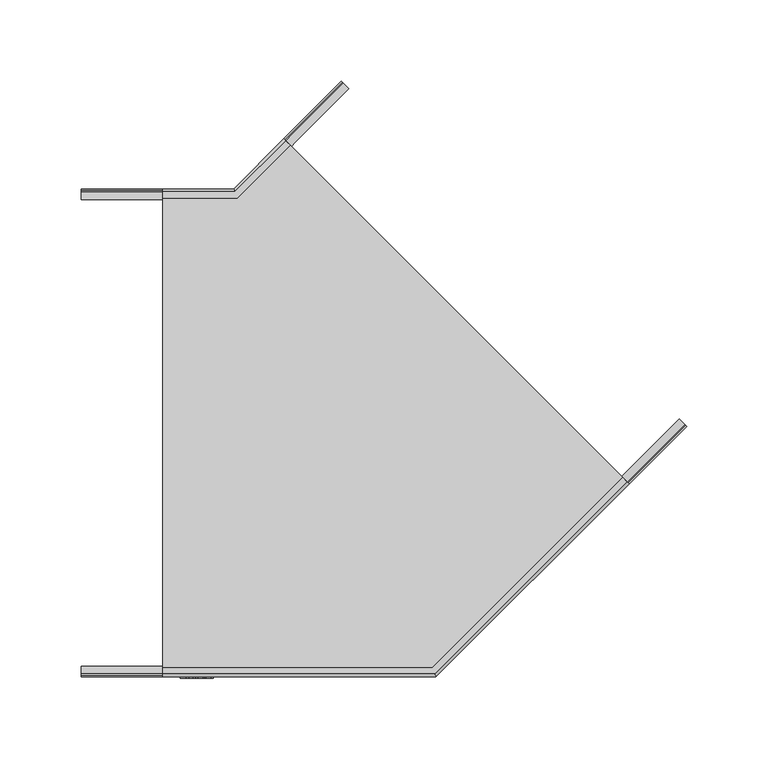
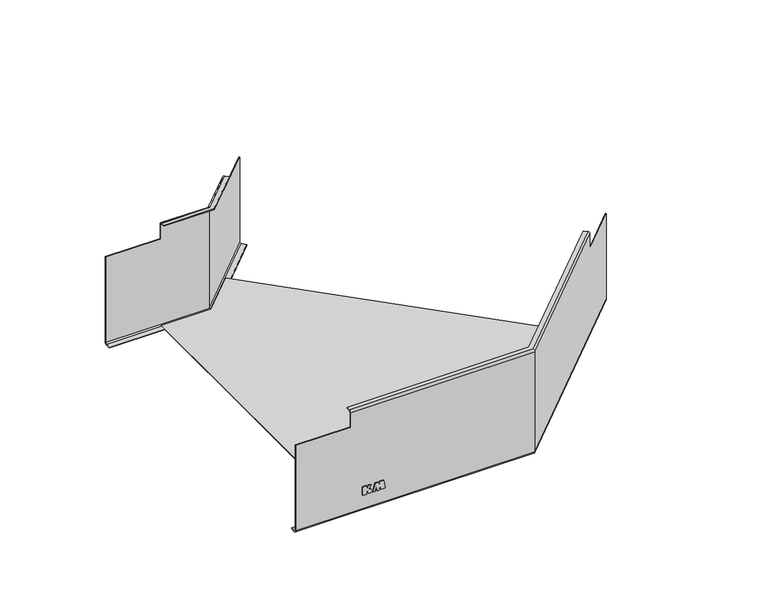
"""IFC4 building model written with IfcOpenShell, lengths in millimetres: cable carrier fitting geometry, КМ Профиль Угол горизонтальный GL45 : Угол горизонтальный GL45."""

from ifc_helpers import new_model, si_unit, frame, origin, place, context, project, spatial, polyline, circle_curve, ellipse_curve, outline, extrude, source, transform, mapped, element, save
from ifc_brep_helpers import plane_surface, cylinder_surface, revolved_surface, advanced_brep


def cable_carrier_fitting_a9c2bbf1(model_context):
    return source(origin(), model_context, "Body", "SolidModel", [
        extrude(outline(polyline([(-26.986157, -94.9286902), (-34.737421, -94.9286902), (-34.737421, -91.3528633), (-31.5720802, -91.3528633), (-34.737421, -89.6486588), (-34.737421, -85.7502474), (-31.194034, -87.6175565), (-30.5086619, -89.8593076), (-26.986157, -87.3928231), (-26.986157, -89.5187878), (-30.564509, -91.4214313), (-26.986157, -91.4214313), (-26.986157, -94.9286902)])), frame((0.0, -150.8, 0.0), z_axis=(0.0, 1.0, 0.0), x_axis=(0.0, 0.0, 1.0)), (0.0, 0.0, 1.0), 0.8),
        extrude(outline(polyline([(-34.737421, -83.686088), (-30.0696135, -83.3024132), (-34.7434681, -81.8943945), (-34.7434681, -80.4198838), (-30.0541919, -78.9398153), (-34.7429915, -78.4623226), (-34.7429915, -74.559882), (-26.9623682, -75.7513795), (-26.9623682, -78.9453343), (-30.0390232, -79.9666418), (-26.9647569, -80.7331425), (-26.9647569, -83.763871), (-34.737421, -85.5841516), (-34.737421, -83.686088)])), frame((0.0, -150.8, 0.0), z_axis=(0.0, 1.0, 0.0), x_axis=(0.0, 0.0, 1.0)), (0.0, 0.0, 1.0), 0.8),
        advanced_brep(
        [(-155.6898121, -149.2, -48.2), (-155.6898121, -148.2, -49.2), (-155.6898121, -143.5, -49.2), (-155.6898121, -143.5, -50.0), (-155.6898121, -148.2, -50.0), (-155.6898121, -150.0, -48.2), (-155.6898121, -150.0, 34.0), (-155.6898121, -149.2, 34.0), (61.8006635, -149.2, 48.2), (61.8006635, -149.2, -48.2), (-105.6898121, -149.2, 34.0), (-105.6898121, -149.2, 48.2), (61.3864499, -148.2, -49.2), (214.8825469, 5.2960969, -49.2), (211.559145, 8.6194988, -49.2), (59.4396462, -143.5, -49.2), (59.4396462, -143.5, -50.0), (211.559145, 8.6194988, -50.0), (214.8825469, 5.2960969, -50.0), (61.3864499, -148.2, -50.0), (62.1320344, -150.0, -48.2), (62.1320344, -150.0, 48.2), (-105.6898121, -150.0, 48.2), (-105.6898121, -150.0, 34.0), (61.3864499, -148.2, 50.0), (-105.6898121, -148.2, 50.0), (179.5272078, -30.0592421, 50.0), (176.9109127, -27.4429471, 50.0), (59.8538598, -144.5, 50.0), (-105.6898121, -144.5, 50.0), (59.8538598, -144.5, 49.2), (-105.6898121, -144.5, 49.2), (176.9109127, -27.4429471, 49.2), (179.5272078, -30.0592421, 49.2), (61.3864499, -148.2, 49.2), (-105.6898121, -148.2, 49.2), (215.5896536, 4.5889901, -48.2), (215.5896536, 4.5889901, 34.0), (216.1553391, 4.0233047, 34.0), (216.1553391, 4.0233047, -48.2), (180.2343146, -30.7663489, 48.2), (180.2343146, -30.7663489, 34.0), (180.8, -31.3320344, 34.0), (180.8, -31.3320344, 48.2)],
        [
            (0, 1, circle_curve(frame((-155.6898121, -148.2, -48.2), z_axis=(1.0, 0.0, 0.0), x_axis=(0.0, 1.0, 0.0)), 1.0)),
            (1, 2),
            (2, 3),
            (3, 4),
            (4, 5, circle_curve(frame((-155.6898121, -148.2, -48.2), z_axis=(-1.0, 0.0, 0.0), x_axis=(0.0, 1.0, 0.0)), 1.8)),
            (5, 6),
            (6, 7),
            (7, 0),
            (8, 9),
            (9, 0),
            (7, 10),
            (10, 11),
            (11, 8),
            (9, 12, ellipse_curve(frame((61.3864499, -148.2, -48.2), z_axis=(0.9238795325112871, 0.3826834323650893, 0.0), x_axis=(0.38268343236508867, -0.9238795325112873, 0.0)), 1.0823922, 1.0)),
            (12, 1),
            (12, 13),
            (13, 14),
            (14, 15),
            (15, 2),
            (15, 16),
            (16, 3),
            (16, 17),
            (17, 18),
            (18, 19),
            (19, 4),
            (19, 20, ellipse_curve(frame((61.3864499, -148.2, -48.2), z_axis=(-0.9238795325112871, -0.3826834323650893, 0.0), x_axis=(-0.38268343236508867, 0.9238795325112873, 0.0)), 1.948306, 1.8)),
            (20, 5),
            (20, 21),
            (21, 22),
            (22, 23),
            (23, 6),
            (21, 24, ellipse_curve(frame((61.3864499, -148.2, 48.2), z_axis=(-0.9238795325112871, -0.3826834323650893, 0.0), x_axis=(-0.38268343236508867, 0.9238795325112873, 0.0)), 1.948306, 1.8)),
            (24, 25),
            (25, 22, circle_curve(frame((-105.6898121, -148.2, 48.2), z_axis=(1.0, 0.0, 0.0), x_axis=(0.0, 1.0, 0.0)), 1.8)),
            (24, 26),
            (26, 27),
            (27, 28),
            (28, 29),
            (29, 25),
            (28, 30),
            (30, 31),
            (31, 29),
            (30, 32),
            (32, 33),
            (33, 34),
            (34, 35),
            (35, 31),
            (34, 8, ellipse_curve(frame((61.3864499, -148.2, 48.2), z_axis=(0.9238795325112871, 0.3826834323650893, 0.0), x_axis=(0.38268343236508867, -0.9238795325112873, 0.0)), 1.0823922, 1.0)),
            (11, 35, circle_curve(frame((-105.6898121, -148.2, 48.2), z_axis=(-1.0, 0.0, 0.0), x_axis=(0.0, 1.0, 0.0)), 1.0)),
            (13, 36, circle_curve(frame((214.8825469, 5.2960969, -48.2), z_axis=(-0.7071067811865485, -0.7071067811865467, 0.0), x_axis=(-0.7071067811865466, 0.7071067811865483, 0.0)), 1.0)),
            (36, 37),
            (37, 38),
            (38, 39),
            (39, 18, circle_curve(frame((214.8825469, 5.2960969, -48.2), z_axis=(0.7071067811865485, 0.7071067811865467, 0.0), x_axis=(-0.7071067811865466, 0.7071067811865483, 0.0)), 1.8)),
            (17, 14),
            (8, 40),
            (40, 41),
            (41, 37),
            (36, 9),
            (39, 20),
            (38, 42),
            (42, 43),
            (43, 21),
            (43, 26, circle_curve(frame((179.5272078, -30.0592421, 48.2), z_axis=(-0.7071067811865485, -0.7071067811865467, 0.0), x_axis=(-0.7071067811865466, 0.7071067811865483, 0.0)), 1.8)),
            (27, 32),
            (33, 40, circle_curve(frame((179.5272078, -30.0592421, 48.2), z_axis=(0.7071067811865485, 0.7071067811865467, 0.0), x_axis=(-0.7071067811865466, 0.7071067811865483, 0.0)), 1.0)),
            (23, 10),
            (41, 42),
        ],
        [
            plane_surface(frame((-155.6898121, -150.0, 0.0), z_axis=(-1.0, 0.0, 0.0), x_axis=(0.0, 0.0, 1.0))),
            plane_surface(frame((-155.6898121, -149.2, 48.2), z_axis=(0.0, 1.0, 0.0), x_axis=(1.0, 0.0, 0.0))),
            revolved_surface(polyline([(61.80066350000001, -147.2, -48.2), (-155.6898121, -147.2, -48.2)]), (-155.6898121, -148.2, -48.2), (1.0, 0.0, 0.0)),
            plane_surface(frame((-155.6898121, -148.2, -49.2), z_axis=(0.0, 0.0, 1.0), x_axis=(1.0, 0.0, 0.0))),
            plane_surface(frame((-155.6898121, -143.5, -49.2), z_axis=(0.0, 1.0, 0.0), x_axis=(1.0, 0.0, 0.0))),
            plane_surface(frame((-155.6898121, -143.5, -50.0), z_axis=(0.0, 0.0, -1.0), x_axis=(1.0, 0.0, 0.0))),
            cylinder_surface(frame((-155.6898121, -148.2, -48.2), z_axis=(-1.0, 0.0, 0.0), x_axis=(0.0, 1.0, 0.0)), 1.8),
            plane_surface(frame((-155.6898121, -150.0, -48.2), z_axis=(0.0, -1.0, 0.0), x_axis=(1.0, 0.0, 0.0))),
            cylinder_surface(frame((-155.6898121, -148.2, 48.2), z_axis=(-1.0, 0.0, 0.0), x_axis=(0.0, 1.0, 0.0)), 1.8),
            plane_surface(frame((-155.6898121, -148.2, 50.0), z_axis=(0.0, 0.0, 1.0), x_axis=(1.0, 0.0, 0.0))),
            plane_surface(frame((-155.6898121, -144.5, 50.0), z_axis=(0.0, 1.0, 0.0), x_axis=(1.0, 0.0, 0.0))),
            plane_surface(frame((-155.6898121, -144.5, 49.2), z_axis=(0.0, 0.0, -1.0), x_axis=(1.0, 0.0, 0.0))),
            revolved_surface(polyline([(61.80066350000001, -147.2, 48.2), (-105.6898121, -147.2, 48.2)]), (-155.6898121, -148.2, 48.2), (1.0, 0.0, 0.0)),
            plane_surface(frame((216.1553391, 4.0233047, 0.0), z_axis=(0.7071067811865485, 0.7071067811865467, 0.0), x_axis=(0.0, 0.0, 1.0))),
            plane_surface(frame((61.8006635, -149.2, 48.2), z_axis=(-0.7071067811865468, 0.7071067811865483, 0.0), x_axis=(0.7071067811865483, 0.7071067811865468, 0.0))),
            revolved_surface(polyline([(214.17544006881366, 6.003203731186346, -48.2), (60.386449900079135, -147.78578643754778, -48.2)]), (60.8592421, -148.7272078, -48.2), (0.7071067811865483, 0.7071067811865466, 0.0)),
            plane_surface(frame((59.4396462, -143.5, -49.2), z_axis=(-0.7071067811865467, 0.7071067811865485, 0.0), x_axis=(0.7071067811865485, 0.7071067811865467, 0.0))),
            cylinder_surface(frame((60.8592421, -148.7272078, -48.2), z_axis=(-0.7071067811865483, -0.7071067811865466, 0.0), x_axis=(-0.7071067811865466, 0.7071067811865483, 0.0)), 1.8),
            plane_surface(frame((62.1320344, -150.0, -48.2), z_axis=(0.7071067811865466, -0.7071067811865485, 0.0), x_axis=(0.7071067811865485, 0.7071067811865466, 0.0))),
            cylinder_surface(frame((60.8592421, -148.7272078, 48.2), z_axis=(-0.7071067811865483, -0.7071067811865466, 0.0), x_axis=(-0.7071067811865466, 0.7071067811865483, 0.0)), 1.8),
            plane_surface(frame((59.8538598, -144.5, 50.0), z_axis=(-0.7071067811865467, 0.7071067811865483, 0.0), x_axis=(0.7071067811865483, 0.7071067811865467, 0.0))),
            revolved_surface(polyline([(178.8201010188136, -29.35213531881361, 48.2), (60.386449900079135, -147.78578643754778, 48.2)]), (60.8592421, -148.7272078, 48.2), (0.7071067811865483, 0.7071067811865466, 0.0)),
            plane_surface(frame((-155.6898121, -150.0, 34.0), z_axis=(0.0, 0.0, 1.0), x_axis=(-1.0, 0.0, 0.0))),
            plane_surface(frame((-105.6898121, -150.0, 50.0), z_axis=(-1.0, 0.0, 0.0), x_axis=(0.0, 0.0, -1.0))),
            plane_surface(frame((-31.3320344, 180.8, 50.0), z_axis=(0.7071067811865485, 0.7071067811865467, 0.0), x_axis=(0.0, 0.0, -1.0))),
        ],
        [
            (0, [[1, 2, 3, 4, 5, 6, 7, 8]]),
            (1, [[9, 10, -8, 11, 12, 13]]),
            (2, [[-1, -10, 14, 15]]),
            (3, [[-2, -15, 16, 17, 18, 19]]),
            (4, [[-3, -19, 20, 21]]),
            (5, [[-4, -21, 22, 23, 24, 25]]),
            (6, [[-5, -25, 26, 27]]),
            (7, [[-27, 28, 29, 30, 31, -6]]),
            (8, [[32, 33, 34, -29]]),
            (9, [[-33, 35, 36, 37, 38, 39]]),
            (10, [[40, 41, 42, -38]]),
            (11, [[-41, 43, 44, 45, 46, 47]]),
            (12, [[48, -13, 49, -46]]),
            (13, [[-17, 50, 51, 52, 53, 54, -23, 55]]),
            (14, [[-9, 56, 57, 58, -51, 59]]),
            (15, [[-14, -59, -50, -16]]),
            (16, [[-18, -55, -22, -20]]),
            (17, [[-24, -54, 60, -26]]),
            (18, [[-28, -60, -53, 61, 62, 63]]),
            (19, [[-32, -63, 64, -35]]),
            (20, [[-40, -37, 65, -43]]),
            (21, [[-48, -45, 66, -56]]),
            (22, [[67, -11, -7, -31]]),
            (22, [[68, -61, -52, -58]]),
            (23, [[-67, -30, -34, -39, -42, -47, -49, -12]]),
            (24, [[-68, -57, -66, -44, -65, -36, -64, -62]]),
        ],
    ),
        advanced_brep(
        [(-155.6898121, 143.5, -49.2), (-155.6898121, 148.2, -49.2), (-155.6898121, 149.2, -48.2), (-155.6898121, 149.2, 34.0), (-155.6898121, 150.0, 34.0), (-155.6898121, 150.0, -48.2), (-155.6898121, 148.2, -50.0), (-155.6898121, 143.5, -50.0), (-59.4396462, 143.5, -49.2), (8.6194988, 211.559145, -49.2), (5.2960969, 214.8825469, -49.2), (-61.3864499, 148.2, -49.2), (-61.8006635, 149.2, -48.2), (-61.8006635, 149.2, 48.2), (-105.6898121, 149.2, 48.2), (-105.6898121, 149.2, 34.0), (-61.3864499, 148.2, 49.2), (-105.6898121, 148.2, 49.2), (-30.0592421, 179.5272078, 49.2), (-27.4429471, 176.9109127, 49.2), (-59.8538598, 144.5, 49.2), (-105.6898121, 144.5, 49.2), (-59.8538598, 144.5, 50.0), (-105.6898121, 144.5, 50.0), (-27.4429471, 176.9109127, 50.0), (-30.0592421, 179.5272078, 50.0), (-61.3864499, 148.2, 50.0), (-105.6898121, 148.2, 50.0), (-62.1320344, 150.0, 48.2), (-105.6898121, 150.0, 48.2), (-62.1320344, 150.0, -48.2), (-105.6898121, 150.0, 34.0), (-61.3864499, 148.2, -50.0), (5.2960969, 214.8825469, -50.0), (8.6194988, 211.559145, -50.0), (-59.4396462, 143.5, -50.0), (4.0233047, 216.1553391, -48.2), (4.0233047, 216.1553391, 34.0), (4.5889901, 215.5896536, 34.0), (4.5889901, 215.5896536, -48.2), (-30.7663489, 180.2343146, 34.0), (-30.7663489, 180.2343146, 48.2), (-31.3320344, 180.8, 48.2), (-31.3320344, 180.8, 34.0)],
        [
            (0, 1),
            (1, 2, circle_curve(frame((-155.6898121, 148.2, -48.2), z_axis=(1.0, 0.0, 0.0), x_axis=(0.0, 1.0, 0.0)), 1.0)),
            (2, 3),
            (3, 4),
            (4, 5),
            (5, 6, circle_curve(frame((-155.6898121, 148.2, -48.2), z_axis=(-1.0, 0.0, 0.0), x_axis=(0.0, 1.0, 0.0)), 1.8)),
            (6, 7),
            (7, 0),
            (0, 8),
            (8, 9),
            (9, 10),
            (10, 11),
            (11, 1),
            (11, 12, ellipse_curve(frame((-61.3864499, 148.2, -48.2), z_axis=(0.9238795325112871, 0.38268343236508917, 0.0), x_axis=(0.3826834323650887, -0.9238795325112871, 0.0)), 1.0823922, 1.0)),
            (12, 2),
            (12, 13),
            (13, 14),
            (14, 15),
            (15, 3),
            (13, 16, ellipse_curve(frame((-61.3864499, 148.2, 48.2), z_axis=(0.9238795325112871, 0.38268343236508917, 0.0), x_axis=(0.3826834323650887, -0.9238795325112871, 0.0)), 1.0823922, 1.0)),
            (16, 17),
            (17, 14, circle_curve(frame((-105.6898121, 148.2, 48.2), z_axis=(-1.0, 0.0, 0.0), x_axis=(0.0, 1.0, 0.0)), 1.0)),
            (16, 18),
            (18, 19),
            (19, 20),
            (20, 21),
            (21, 17),
            (20, 22),
            (22, 23),
            (23, 21),
            (22, 24),
            (24, 25),
            (25, 26),
            (26, 27),
            (27, 23),
            (26, 28, ellipse_curve(frame((-61.3864499, 148.2, 48.2), z_axis=(-0.9238795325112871, -0.38268343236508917, 0.0), x_axis=(-0.3826834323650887, 0.9238795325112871, 0.0)), 1.948306, 1.8)),
            (28, 29),
            (29, 27, circle_curve(frame((-105.6898121, 148.2, 48.2), z_axis=(1.0, 0.0, 0.0), x_axis=(0.0, 1.0, 0.0)), 1.8)),
            (28, 30),
            (30, 5),
            (4, 31),
            (31, 29),
            (30, 32, ellipse_curve(frame((-61.3864499, 148.2, -48.2), z_axis=(-0.9238795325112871, -0.38268343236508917, 0.0), x_axis=(-0.3826834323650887, 0.9238795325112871, 0.0)), 1.948306, 1.8)),
            (32, 6),
            (32, 33),
            (33, 34),
            (34, 35),
            (35, 7),
            (35, 8),
            (9, 34),
            (33, 36, circle_curve(frame((5.2960969, 214.8825469, -48.2), z_axis=(0.7071067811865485, 0.7071067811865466, 0.0), x_axis=(-0.7071067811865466, 0.7071067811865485, 0.0)), 1.8)),
            (36, 37),
            (37, 38),
            (38, 39),
            (39, 10, circle_curve(frame((5.2960969, 214.8825469, -48.2), z_axis=(-0.7071067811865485, -0.7071067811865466, 0.0), x_axis=(-0.7071067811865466, 0.7071067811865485, 0.0)), 1.0)),
            (39, 12),
            (38, 40),
            (40, 41),
            (41, 13),
            (41, 18, circle_curve(frame((-30.0592421, 179.5272078, 48.2), z_axis=(0.7071067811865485, 0.7071067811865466, 0.0), x_axis=(-0.7071067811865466, 0.7071067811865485, 0.0)), 1.0)),
            (19, 24),
            (25, 42, circle_curve(frame((-30.0592421, 179.5272078, 48.2), z_axis=(-0.7071067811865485, -0.7071067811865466, 0.0), x_axis=(-0.7071067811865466, 0.7071067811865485, 0.0)), 1.8)),
            (42, 28),
            (42, 43),
            (43, 37),
            (36, 30),
            (15, 31),
            (43, 40),
        ],
        [
            plane_surface(frame((-155.6898121, 150.0, 0.0), z_axis=(-1.0, 0.0, 0.0), x_axis=(0.0, 0.0, 1.0))),
            plane_surface(frame((-155.6898121, 143.5, -49.2), z_axis=(0.0, 0.0, 1.0), x_axis=(1.0, 0.0, 0.0))),
            revolved_surface(polyline([(-60.972236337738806, 149.2, -48.2), (-155.6898121, 149.2, -48.2)]), (-155.6898121, 148.2, -48.2), (1.0, 0.0, 0.0)),
            plane_surface(frame((-155.6898121, 149.2, -48.2), z_axis=(0.0, -1.0, 0.0), x_axis=(1.0, 0.0, 0.0))),
            revolved_surface(polyline([(-60.972236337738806, 149.2, 48.2), (-105.6898121, 149.2, 48.2)]), (-155.6898121, 148.2, 48.2), (1.0, 0.0, 0.0)),
            plane_surface(frame((-155.6898121, 148.2, 49.2), z_axis=(0.0, 0.0, -1.0), x_axis=(1.0, 0.0, 0.0))),
            plane_surface(frame((-155.6898121, 144.5, 49.2), z_axis=(0.0, -1.0, 0.0), x_axis=(1.0, 0.0, 0.0))),
            plane_surface(frame((-155.6898121, 144.5, 50.0), z_axis=(0.0, 0.0, 1.0), x_axis=(1.0, 0.0, 0.0))),
            cylinder_surface(frame((-155.6898121, 148.2, 48.2), z_axis=(-1.0, 0.0, 0.0), x_axis=(0.0, 1.0, 0.0)), 1.8),
            plane_surface(frame((-155.6898121, 150.0, 48.2), z_axis=(0.0, 1.0, 0.0), x_axis=(1.0, 0.0, 0.0))),
            cylinder_surface(frame((-155.6898121, 148.2, -48.2), z_axis=(-1.0, 0.0, 0.0), x_axis=(0.0, 1.0, 0.0)), 1.8),
            plane_surface(frame((-155.6898121, 148.2, -50.0), z_axis=(0.0, 0.0, -1.0), x_axis=(1.0, 0.0, 0.0))),
            plane_surface(frame((-155.6898121, 143.5, -50.0), z_axis=(0.0, -1.0, 0.0), x_axis=(1.0, 0.0, 0.0))),
            plane_surface(frame((4.0233047, 216.1553391, 0.0), z_axis=(0.7071067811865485, 0.7071067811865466, 0.0), x_axis=(0.0, 0.0, 1.0))),
            revolved_surface(polyline([(4.588990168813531, 215.58965363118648, -48.2), (-62.38644989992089, 148.61421356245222, -48.2)]), (-60.8592421, 148.7272078, -48.2), (0.7071067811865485, 0.7071067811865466, 0.0)),
            plane_surface(frame((-61.8006635, 149.2, -48.2), z_axis=(0.7071067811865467, -0.7071067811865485, 0.0), x_axis=(0.7071067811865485, 0.7071067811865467, 0.0))),
            revolved_surface(polyline([(-30.7663488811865, 180.23431458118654, 48.2), (-62.38644989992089, 148.61421356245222, 48.2)]), (-60.8592421, 148.7272078, 48.2), (0.7071067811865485, 0.7071067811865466, 0.0)),
            plane_surface(frame((-59.8538598, 144.5, 49.2), z_axis=(0.7071067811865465, -0.7071067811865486, 0.0), x_axis=(0.7071067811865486, 0.7071067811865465, 0.0))),
            cylinder_surface(frame((-60.8592421, 148.7272078, 48.2), z_axis=(-0.7071067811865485, -0.7071067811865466, 0.0), x_axis=(-0.7071067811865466, 0.7071067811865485, 0.0)), 1.8),
            plane_surface(frame((-62.1320344, 150.0, 48.2), z_axis=(-0.7071067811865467, 0.7071067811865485, 0.0), x_axis=(0.7071067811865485, 0.7071067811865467, 0.0))),
            cylinder_surface(frame((-60.8592421, 148.7272078, -48.2), z_axis=(-0.7071067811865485, -0.7071067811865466, 0.0), x_axis=(-0.7071067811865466, 0.7071067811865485, 0.0)), 1.8),
            plane_surface(frame((-59.4396462, 143.5, -50.0), z_axis=(0.7071067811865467, -0.7071067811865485, 0.0), x_axis=(0.7071067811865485, 0.7071067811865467, 0.0))),
            plane_surface(frame((-155.6898121, -150.0, 34.0), z_axis=(0.0, 0.0, 1.0), x_axis=(-1.0, 0.0, 0.0))),
            plane_surface(frame((-105.6898121, -150.0, 50.0), z_axis=(-1.0, 0.0, 0.0), x_axis=(0.0, 0.0, -1.0))),
            plane_surface(frame((-31.3320344, 180.8, 50.0), z_axis=(0.7071067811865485, 0.7071067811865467, 0.0), x_axis=(0.0, 0.0, -1.0))),
        ],
        [
            (0, [[1, 2, 3, 4, 5, 6, 7, 8]]),
            (1, [[-1, 9, 10, 11, 12, 13]]),
            (2, [[-2, -13, 14, 15]]),
            (3, [[-15, 16, 17, 18, 19, -3]]),
            (4, [[20, 21, 22, -17]]),
            (5, [[-21, 23, 24, 25, 26, 27]]),
            (6, [[28, 29, 30, -26]]),
            (7, [[-29, 31, 32, 33, 34, 35]]),
            (8, [[36, 37, 38, -34]]),
            (9, [[39, 40, -5, 41, 42, -37]]),
            (10, [[-6, -40, 43, 44]]),
            (11, [[-7, -44, 45, 46, 47, 48]]),
            (12, [[-8, -48, 49, -9]]),
            (13, [[-11, 50, -46, 51, 52, 53, 54, 55]]),
            (14, [[-12, -55, 56, -14]]),
            (15, [[-16, -56, -54, 57, 58, 59]]),
            (16, [[-20, -59, 60, -23]]),
            (17, [[-28, -25, 61, -31]]),
            (18, [[-36, -33, 62, 63]]),
            (19, [[-39, -63, 64, 65, -52, 66]]),
            (20, [[-43, -66, -51, -45]]),
            (21, [[-10, -49, -47, -50]]),
            (22, [[67, -41, -4, -19]]),
            (22, [[68, -57, -53, -65]]),
            (23, [[-67, -18, -22, -27, -30, -35, -38, -42]]),
            (24, [[-68, -64, -62, -32, -61, -24, -60, -58]]),
        ],
    ),
        extrude(outline(polyline([(-105.6898121, -147.4), (-105.6898121, 148.2), (-60.2550791, 148.2), (-29.4935567, 178.9615224), (178.9615224, -29.4935567), (61.0550791, -147.4), (-105.6898121, -147.4)])), frame((0.0, 0.0, -49.2), z_axis=(0.0, 0.0, 1.0), x_axis=(1.0, 0.0, 0.0)), (0.0, 0.0, 1.0), 0.8),
    ])


if __name__ == "__main__":
    model = new_model("IFC4")
    model_context = context("Model", 3, world=origin())
    ifc_project = project(units=[si_unit("LENGTHUNIT", "METRE", prefix="MILLI")], contexts=[model_context])
    site = spatial("IfcSite", under=ifc_project)
    building = spatial("IfcBuilding", under=site)
    placement = place(None, origin())
    cable_carrier_fitting_shape = cable_carrier_fitting_a9c2bbf1(model_context)
    element("IfcCableCarrierFitting", 1, ObjectType="КМ Профиль Угол горизонтальный GL45 : Угол горизонтальный GL45", at=placement, inside=building, context=model_context, shape_type="MappedRepresentation", body=[
        mapped(cable_carrier_fitting_shape, transform((0.0, 0.0, 0.0), x_axis=(1.0, 0.0, 0.0), y_axis=(0.0, 1.0, 0.0), z_axis=(0.0, 0.0, 1.0))),
    ])
    save(model, "model.ifc")
